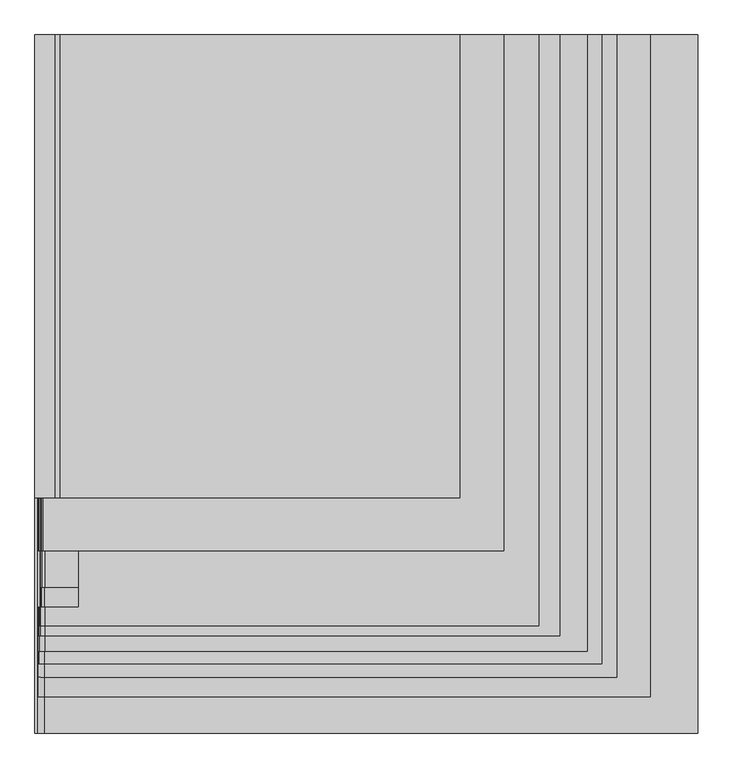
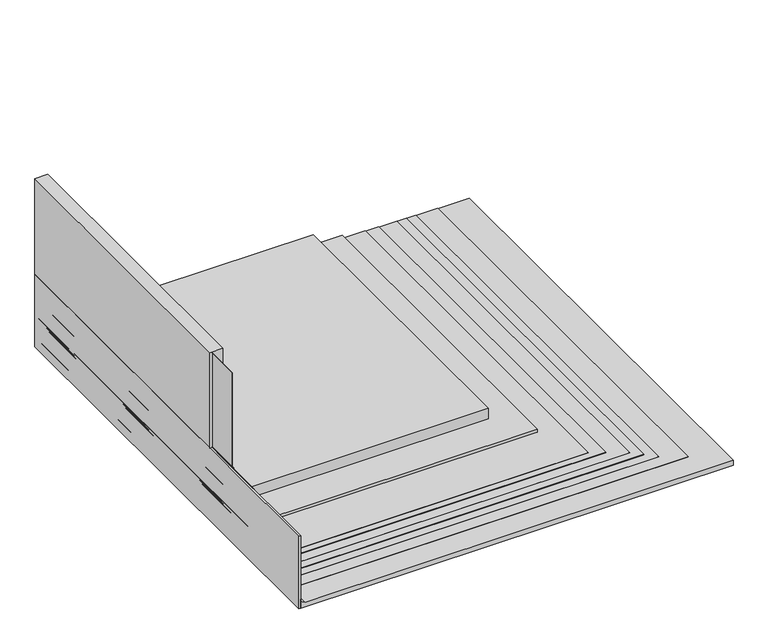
"""IFC4 building model written with IfcOpenShell, lengths in millimetres: proxy geometry, IMPER:IMPER:433934 : IMPER:IMPER:433934."""

import ifcopenshell
import ifcopenshell.guid

model = None  # the IFC model being written
_history = None  # IfcOwnerHistory: only IFC2X3 demands one
_inside = {}  # id of a spatial element -> (the spatial element, [elements in it])
_under = {}  # id of a project, library or spatial element -> (it, [spatial elements below it])
_declared = {}  # id of a project -> (the project, [libraries it declares])
_typed = {}  # id of a type object -> (the type object, [elements of that type])
_made_of = {}  # id of a material, layer set ... -> (it, [elements and type objects made of it])


def new_model(schema):
    """Start an empty IFC model of exactly this schema.

    Asked for "IFC4X3", IfcOpenShell would pick the latest addendum, in which some entities
    have other attributes; the version numbers below select the first issue.
    IFC2X3 requires an IfcOwnerHistory on every rooted entity: one is made here for all.
    """
    global model, _history
    if schema == "IFC4X3":
        model = ifcopenshell.file(schema_version=(4, 3, 0, 0))
    else:
        model = ifcopenshell.file(schema=schema)
    _inside.clear()
    _under.clear()
    _declared.clear()
    _typed.clear()
    _made_of.clear()
    _history = None
    if model.schema == "IFC2X3":
        org = make("IfcOrganization", Name="unknown")
        user = make(
            "IfcPersonAndOrganization",
            ThePerson=make("IfcPerson", FamilyName="unknown"),
            TheOrganization=org,
        )
        app = make(
            "IfcApplication",
            ApplicationDeveloper=org,
            Version="unknown",
            ApplicationFullName="unknown",
            ApplicationIdentifier="unknown",
        )
        _history = make(
            "IfcOwnerHistory",
            OwningUser=user,
            OwningApplication=app,
            ChangeAction="ADDED",
            CreationDate=0,
        )
    return model


def make(cls, **values):
    """One entity of the class cls with the attributes given. An attribute that is None is left unset."""
    return model.create_entity(
        cls, **{name: value for name, value in values.items() if value is not None}
    )


def rooted(cls, **values):
    """An entity with a GlobalId (a new one), such as an element, a storey or a relation."""
    return make(cls, GlobalId=ifcopenshell.guid.new(), OwnerHistory=_history, **values)


def si_unit(unit_type, name, prefix=None):
    """IfcSIUnit, for example si_unit("LENGTHUNIT", "METRE", prefix="MILLI")."""
    return make("IfcSIUnit", UnitType=unit_type, Prefix=prefix, Name=name)


def assignment(units):
    """IfcUnitAssignment: the units of a project."""
    return None if units is None else make("IfcUnitAssignment", Units=units)


def point(xyz):
    """IfcCartesianPoint."""
    return None if xyz is None else make("IfcCartesianPoint", Coordinates=xyz)


def direction(xyz):
    """IfcDirection."""
    return None if xyz is None else make("IfcDirection", DirectionRatios=xyz)


def frame(location, z_axis=None, x_axis=None):
    """IfcAxis2Placement3D, a coordinate frame: its origin and axes. An axis left out is left unset."""
    return make(
        "IfcAxis2Placement3D",
        Location=point(location),
        Axis=direction(z_axis),
        RefDirection=direction(x_axis),
    )


def frame_2d(location, x_axis=None):
    """IfcAxis2Placement2D, a coordinate frame in the plane: its origin and x axis."""
    return make(
        "IfcAxis2Placement2D", Location=point(location), RefDirection=direction(x_axis)
    )


def origin():
    """The frame at (0, 0, 0) with its axes left unset."""
    return frame((0.0, 0.0, 0.0))


def place(relative_to, where):
    """IfcLocalPlacement: puts the frame where relative to a parent placement (None: the world)."""
    return make(
        "IfcLocalPlacement", PlacementRelTo=relative_to, RelativePlacement=where
    )


def context(
    kind, dimensions, precision=None, world=None, true_north=None, identifier=None
):
    """IfcGeometricRepresentationContext, for example the 3D "Model" context."""
    return make(
        "IfcGeometricRepresentationContext",
        ContextIdentifier=identifier,
        ContextType=kind,
        CoordinateSpaceDimension=dimensions,
        Precision=precision,
        WorldCoordinateSystem=world,
        TrueNorth=true_north,
    )


def project(units=None, contexts=None):
    """IfcProject with its units and contexts."""
    return rooted(
        "IfcProject",
        Name="project",
        RepresentationContexts=contexts,
        UnitsInContext=assignment(units),
    )


def spatial(cls, under=None, at=None, **own):
    """A site, building, storey or space (cls), placed at a placement, below another one or the project."""
    s = rooted(cls, ObjectPlacement=at, **own)
    if under is not None:
        _under.setdefault(under.id(), (under, []))[1].append(s)
    return s


def polyline(points):
    """IfcPolyline through the points."""
    return make("IfcPolyline", Points=[point(p) for p in points])


def circle_curve(where, radius):
    """IfcCircle in the frame where."""
    return make("IfcCircle", Position=where, Radius=radius)


def trimmed(basis, trim1, trim2, sense, master):
    """IfcTrimmedCurve: the piece of a basis curve between two trims."""
    return make(
        "IfcTrimmedCurve",
        BasisCurve=basis,
        Trim1=trim1,
        Trim2=trim2,
        SenseAgreement=sense,
        MasterRepresentation=master,
    )


def segment(curve, same_sense, transition):
    """IfcCompositeCurveSegment."""
    return make(
        "IfcCompositeCurveSegment",
        Transition=transition,
        SameSense=same_sense,
        ParentCurve=curve,
    )


def composite_curve(segments, self_intersect=None):
    """IfcCompositeCurve: segments joined end to end."""
    return make("IfcCompositeCurve", Segments=segments, SelfIntersect=self_intersect)


def outline(outer, holes=None, kind="AREA"):
    """IfcArbitraryClosedProfileDef: a profile drawn as a closed curve; with holes, ...WithVoids."""
    if holes is None:
        return make("IfcArbitraryClosedProfileDef", ProfileType=kind, OuterCurve=outer)
    return make(
        "IfcArbitraryProfileDefWithVoids",
        ProfileType=kind,
        OuterCurve=outer,
        InnerCurves=holes,
    )


def extrude(swept, where, along, depth):
    """IfcExtrudedAreaSolid: the profile swept, set in the frame where, extruded along a direction by depth."""
    return make(
        "IfcExtrudedAreaSolid",
        SweptArea=swept,
        Position=where,
        ExtrudedDirection=direction(along),
        Depth=depth,
    )


def shape(context_of_items, identifier, shape_type, items):
    """IfcShapeRepresentation: the items that make up one representation, for example the "Body"."""
    return make(
        "IfcShapeRepresentation",
        ContextOfItems=context_of_items,
        RepresentationIdentifier=identifier,
        RepresentationType=shape_type,
        Items=items,
    )


def source(mapping_origin, context_of_items, identifier, shape_type, items):
    """IfcRepresentationMap: a shape defined once, which mapped items show again and again."""
    return make(
        "IfcRepresentationMap",
        MappingOrigin=mapping_origin,
        MappedRepresentation=shape(context_of_items, identifier, shape_type, items),
    )


def transform(
    local_origin,
    x_axis=None,
    y_axis=None,
    z_axis=None,
    scale=None,
    scale2=None,
    scale3=None,
    uniform=True,
):
    """IfcCartesianTransformationOperator3D, or its non-uniform kind. x_axis, y_axis, z_axis: its Axis1, 2, 3."""
    if uniform:
        return make(
            "IfcCartesianTransformationOperator3D",
            Axis1=direction(x_axis),
            Axis2=direction(y_axis),
            LocalOrigin=point(local_origin),
            Scale=scale,
            Axis3=direction(z_axis),
        )
    return make(
        "IfcCartesianTransformationOperator3DnonUniform",
        Axis1=direction(x_axis),
        Axis2=direction(y_axis),
        LocalOrigin=point(local_origin),
        Scale=scale,
        Axis3=direction(z_axis),
        Scale2=scale2,
        Scale3=scale3,
    )


def mapped(mapping_source, mapping_target):
    """IfcMappedItem: shows the shape of a source again, moved by a transform."""
    return make(
        "IfcMappedItem", MappingSource=mapping_source, MappingTarget=mapping_target
    )


def made_of(thing, what):
    """Note that an element or type object is made of a material, layer set ...; save() writes the relation."""
    if what is not None:
        _made_of.setdefault(what.id(), (what, []))[1].append(thing)
    return thing


def element(
    cls,
    number,
    at=None,
    inside=None,
    cuts=None,
    type_object=None,
    material=None,
    context=None,
    identifier="Body",
    shape_type=None,
    held_by="IfcProductDefinitionShape",
    body=None,
    shapes=None,
    **own,
):
    """One element of the class cls, such as IfcWall. Its Tag is "e" and its number.

    at: its placement. inside: the storey or other place that contains it. cuts: it is an
    opening in that element (IfcRelVoidsElement). A single representation is given by context,
    identifier, shape_type and body (its items); several are given by shapes. held_by: the class
    of the entity that holds the representations. save() writes the other relations.
    """
    e = rooted(cls, Tag="e%d" % number, ObjectPlacement=at, **own)
    if body is not None:
        shapes = [shape(context, identifier, shape_type, body)]
    if shapes is not None:
        e.Representation = make(held_by, Representations=shapes)
    if inside is not None:
        _inside.setdefault(inside.id(), (inside, []))[1].append(e)
    if cuts is not None:
        rooted(
            "IfcRelVoidsElement", RelatingBuildingElement=cuts, RelatedOpeningElement=e
        )
    if type_object is not None:
        _typed.setdefault(type_object.id(), (type_object, []))[1].append(e)
    return made_of(e, material)


def aggregate(whole, parts):
    """IfcRelAggregates: a whole, such as a stair, and the parts it consists of."""
    return rooted("IfcRelAggregates", RelatingObject=whole, RelatedObjects=parts)


def save(model, path):
    """Write the relations noted so far, then the file.

    IfcRelAggregates (storeys below a building ...), IfcRelContainedInSpatialStructure (elements
    in a storey), IfcRelDefinesByType, IfcRelAssociatesMaterial and IfcRelDeclares: one each for
    every whole, place, type object, material and project.
    """
    for whole, parts in _under.values():
        aggregate(whole, parts)
    for where, things in _inside.values():
        rooted(
            "IfcRelContainedInSpatialStructure",
            RelatedElements=things,
            RelatingStructure=where,
        )
    for kind, things in _typed.values():
        rooted("IfcRelDefinesByType", RelatedObjects=things, RelatingType=kind)
    for what, things in _made_of.values():
        rooted("IfcRelAssociatesMaterial", RelatedObjects=things, RelatingMaterial=what)
    for by, libraries in _declared.values():
        rooted("IfcRelDeclares", RelatingContext=by, RelatedDefinitions=libraries)
    model.write(path)


def generic_models_57401092(model_context):
    return source(origin(), model_context, "Body", "SweptSolid", [
        extrude(outline(polyline([(-352.9704105, 145.8700195), (-342.9704105, 145.8700195), (-342.9704105, -2708.2416892), (-352.9704105, -2708.2416892), (-352.9704105, 145.8700195)])), frame((0.0, 0.0, -3.523798), z_axis=(0.0, 0.0, 1.0), x_axis=(1.0, 0.0, 0.0)), (0.0, 0.0, 1.0), 477.2746515),
        extrude(outline(composite_curve([segment(polyline([(43.4968127, -175.9704105), (43.4968127, -312.7298014)]), True, "CONTINUOUS"), segment(trimmed(circle_curve(frame_2d((57.476202, -311.9704105)), 14.0), [point((43.4968127, -312.7298014))], [point((57.0054636, -325.9624942))], True, "CARTESIAN"), True, "CONTINUOUS"), segment(polyline([(57.0054636, -325.9624942), (163.6459496, -325.9624942)]), True, "CONTINUOUS"), segment(trimmed(circle_curve(frame_2d((163.6459496, -336.9154916)), 10.9529974), [point((163.6459496, -325.9624942))], [point((172.8377697, -330.9591004))], False, "CARTESIAN"), True, "CONTINUOUS"), segment(polyline([(172.8377697, -330.9591004), (296.9011706, -330.9591004)]), True, "CONTINUOUS"), segment(trimmed(circle_curve(frame_2d((296.0390559, -341.8781164)), 10.9529974), [point((296.9011706, -330.9591004))], [point((305.208802, -335.8877984))], False, "CARTESIAN"), True, "CONTINUOUS"), segment(polyline([(305.208802, -335.8877984), (461.4305685, -335.8877984), (462.4305685, -336.8877984), (304.6506112, -336.8877984)]), True, "CONTINUOUS"), segment(trimmed(circle_curve(frame_2d((296.0390559, -341.8781164)), 9.9529974), [point((304.6506112, -336.8877984))], [point((296.8608095, -331.9591004))], True, "CARTESIAN"), True, "CONTINUOUS"), segment(polyline([(296.8608095, -331.9591004), (172.2770761, -331.9591004)]), True, "CONTINUOUS"), segment(trimmed(circle_curve(frame_2d((163.6459496, -336.9154916)), 9.9529974), [point((172.2770761, -331.9591004))], [point((163.6459496, -326.9624942))], True, "CARTESIAN"), True, "CONTINUOUS"), segment(polyline([(163.6459496, -326.9624942), (56.9889369, -326.9624942)]), True, "CONTINUOUS"), segment(trimmed(circle_curve(frame_2d((57.476202, -311.9704105)), 15.0), [point((56.9889369, -326.9624942))], [point((42.4968127, -312.7564741))], False, "CARTESIAN"), True, "CONTINUOUS"), segment(polyline([(42.4968127, -312.7564741), (42.4968127, -175.9704105), (43.4968127, -175.9704105)]), True, "CONTINUOUS")], self_intersect=False)), frame((0.0, -2111.5680457, 0.0), z_axis=(0.0, 1.0, 0.0), x_axis=(0.0, 0.0, 1.0)), (0.0, 0.0, 1.0), 2257.4380652),
        extrude(outline(composite_curve([segment(polyline([(37.4968127, 1707.4269282), (38.4968127, 1707.4269282), (38.4968127, -312.8551599)]), True, "CONTINUOUS"), segment(trimmed(circle_curve(frame_2d((57.476202, -311.9704105)), 19.0), [point((38.4968127, -312.8551599))], [point((56.927788, -330.9624942))], True, "CARTESIAN"), True, "CONTINUOUS"), segment(polyline([(56.927788, -330.9624942), (163.6459496, -330.9624942)]), True, "CONTINUOUS"), segment(trimmed(circle_curve(frame_2d((163.6459496, -336.9154916)), 5.9529974), [point((163.6459496, -330.9624942))], [point((168.5147786, -333.4901911))], False, "CARTESIAN"), True, "CONTINUOUS"), segment(trimmed(circle_curve(frame_2d((173.549551, -329.502381)), 6.422738), [point((168.5147786, -333.4901911))], [point((173.549551, -335.925119))], True, "CARTESIAN"), True, "CONTINUOUS"), segment(polyline([(173.549551, -335.925119), (296.0390559, -335.925119)]), True, "CONTINUOUS"), segment(trimmed(circle_curve(frame_2d((296.0390559, -341.8781164)), 5.9529974), [point((296.0390559, -335.925119))], [point((300.9078849, -338.452816))], False, "CARTESIAN"), True, "CONTINUOUS"), segment(trimmed(circle_curve(frame_2d((305.838972, -334.6773306)), 6.2104678), [point((300.9078849, -338.452816))], [point((305.838972, -340.8877984))], True, "CARTESIAN"), True, "CONTINUOUS"), segment(polyline([(305.838972, -340.8877984), (466.4305685, -340.8877984), (467.5131806, -341.9704105), (301.4712479, -341.9591004), (301.4712479, -340.9541463), (297.4712479, -336.9541463), (173.4776741, -336.9541463)]), True, "CONTINUOUS"), segment(trimmed(circle_curve(frame_2d((173.859384, -328.7888279)), 8.1742355), [point((173.4776741, -336.9541463))], [point((167.9082305, -334.3925677))], False, "CARTESIAN"), True, "CONTINUOUS"), segment(trimmed(circle_curve(frame_2d((163.6459496, -336.9154916)), 4.9529974), [point((167.9082305, -334.3925677))], [point((163.6459496, -331.9624942))], True, "CARTESIAN"), True, "CONTINUOUS"), segment(polyline([(163.6459496, -331.9624942), (56.9135382, -331.9624942)]), True, "CONTINUOUS"), segment(trimmed(circle_curve(frame_2d((57.476202, -311.9704105)), 20.0), [point((56.9135382, -331.9624942))], [point((37.4968127, -312.8781566))], False, "CARTESIAN"), True, "CONTINUOUS"), segment(polyline([(37.4968127, -312.8781566), (37.4968127, 1707.4269282)]), True, "CONTINUOUS")], self_intersect=False)), frame((0.0, -2268.6283791, 0.0), z_axis=(0.0, 1.0, 0.0), x_axis=(0.0, 0.0, 1.0)), (0.0, 0.0, 1.0), 2414.4983986),
        extrude(outline(composite_curve([segment(polyline([(32.4968127, 1906.1092567), (33.4968127, 1906.1092567), (33.4968127, -312.9648392)]), True, "CONTINUOUS"), segment(trimmed(circle_curve(frame_2d((57.476202, -311.9704105)), 24.0), [point((33.4968127, -312.9648392))], [point((56.8598245, -335.9624942))], True, "CARTESIAN"), True, "CONTINUOUS"), segment(polyline([(56.8598245, -335.9624942), (164.0231996, -335.9624942)]), True, "CONTINUOUS"), segment(trimmed(circle_curve(frame_2d((173.859384, -328.7888279)), 12.1742355), [point((164.0231996, -335.9624942))], [point((173.3935088, -340.9541463))], True, "CARTESIAN"), True, "CONTINUOUS"), segment(polyline([(173.3935088, -340.9541463), (301.4712479, -340.9541463), (301.4712479, -341.9591004), (167.6425559, -341.9591004), (167.6425559, -340.9591004), (163.6459496, -336.9624942), (56.8471123, -336.9624942)]), True, "CONTINUOUS"), segment(trimmed(circle_curve(frame_2d((57.476202, -311.9704105)), 25.0), [point((56.8471123, -336.9624942))], [point((32.4968127, -312.9853538))], False, "CARTESIAN"), True, "CONTINUOUS"), segment(polyline([(32.4968127, -312.9853538), (32.4968127, 1906.1092567)]), True, "CONTINUOUS")], self_intersect=False)), frame((0.0, -2372.9793476, 0.0), z_axis=(0.0, 1.0, 0.0), x_axis=(0.0, 0.0, 1.0)), (0.0, 0.0, 1.0), 2518.8493671),
        extrude(outline(composite_curve([segment(polyline([(27.5018705, 2025.6221521), (28.4968127, 2025.6221521), (28.4968127, -314.0445492)]), True, "CONTINUOUS"), segment(trimmed(circle_curve(frame_2d((56.476202, -312.9704105)), 28.0), [point((28.4968127, -314.0445492))], [point((55.8104304, -340.9624942))], True, "CARTESIAN"), True, "CONTINUOUS"), segment(polyline([(55.8104304, -340.9624942), (165.6459496, -340.9624942), (165.6459496, -341.9591004), (55.6663512, -341.9591004)]), True, "CONTINUOUS"), segment(trimmed(circle_curve(frame_2d((56.476202, -312.9704105)), 29.0), [point((55.6663512, -341.9591004))], [point((27.5018705, -314.1902924))], False, "CARTESIAN"), True, "CONTINUOUS"), segment(polyline([(27.5018705, -314.1902924), (27.5018705, 2025.6221521)]), True, "CONTINUOUS")], self_intersect=False)), frame((0.0, -2478.9376415, 0.0), z_axis=(0.0, 1.0, 0.0), x_axis=(0.0, 0.0, 1.0)), (0.0, 0.0, 1.0), 2624.807661),
        extrude(outline(composite_curve([segment(polyline([(38.4968127, -312.8551599), (38.4968127, -175.9704105), (42.4968127, -175.9704105), (42.4968127, -312.7564741)]), True, "CONTINUOUS"), segment(trimmed(circle_curve(frame_2d((57.476202, -311.9704105)), 15.0), [point((42.4968127, -312.7564741))], [point((56.9889369, -326.9624942))], True, "CARTESIAN"), True, "CONTINUOUS"), segment(polyline([(56.9889369, -326.9624942), (163.6459496, -326.9624942)]), True, "CONTINUOUS"), segment(trimmed(circle_curve(frame_2d((163.6459496, -336.9154916)), 9.9529974), [point((163.6459496, -326.9624942))], [point((172.2770761, -331.9591004))], False, "CARTESIAN"), True, "CONTINUOUS"), segment(polyline([(172.2770761, -331.9591004), (296.8608095, -331.9591004)]), True, "CONTINUOUS"), segment(trimmed(circle_curve(frame_2d((296.0390559, -341.8781164)), 9.9529974), [point((296.8608095, -331.9591004))], [point((304.6506112, -336.8877984))], False, "CARTESIAN"), True, "CONTINUOUS"), segment(polyline([(304.6506112, -336.8877984), (462.4305685, -336.8877984), (466.4305685, -340.8877984), (305.838972, -340.8877984)]), True, "CONTINUOUS"), segment(trimmed(circle_curve(frame_2d((305.838972, -334.6773306)), 6.2104678), [point((305.838972, -340.8877984))], [point((300.9078849, -338.452816))], False, "CARTESIAN"), True, "CONTINUOUS"), segment(trimmed(circle_curve(frame_2d((296.0390559, -341.8781164)), 5.9529974), [point((300.9078849, -338.452816))], [point((296.0390559, -335.925119))], True, "CARTESIAN"), True, "CONTINUOUS"), segment(polyline([(296.0390559, -335.925119), (173.549551, -335.925119)]), True, "CONTINUOUS"), segment(trimmed(circle_curve(frame_2d((173.549551, -329.502381)), 6.422738), [point((173.549551, -335.925119))], [point((168.5147786, -333.4901911))], False, "CARTESIAN"), True, "CONTINUOUS"), segment(trimmed(circle_curve(frame_2d((163.6459496, -336.9154916)), 5.9529974), [point((168.5147786, -333.4901911))], [point((163.6459496, -330.9624942))], True, "CARTESIAN"), True, "CONTINUOUS"), segment(polyline([(163.6459496, -330.9624942), (56.927788, -330.9624942)]), True, "CONTINUOUS"), segment(trimmed(circle_curve(frame_2d((57.476202, -311.9704105)), 19.0), [point((56.927788, -330.9624942))], [point((38.4968127, -312.8551599))], False, "CARTESIAN"), True, "CONTINUOUS")], self_intersect=False)), frame((0.0, -2191.1266924, 0.0), z_axis=(0.0, 1.0, 0.0), x_axis=(0.0, 0.0, 1.0)), (0.0, 0.0, 1.0), 2336.9967119),
        extrude(outline(polyline([(-271.9704105, 145.8700195), (-251.9704105, 145.8700195), (-251.9704105, -1746.6992838), (-271.9704105, -1746.6992838), (-271.9704105, 145.8700195)])), frame((0.0, 0.0, 107.3018705), z_axis=(0.0, 0.0, 1.0), x_axis=(1.0, 0.0, 0.0)), (0.0, 0.0, 1.0), 20.0),
        extrude(outline(composite_curve([segment(polyline([(127.3018705, 1383.8408996), (127.3018705, -251.9704105), (107.3018705, -251.9704105), (107.3018705, -271.9704105), (127.3018705, -271.9704105), (1104.1279924, -271.9704105), (1104.1279924, -352.9704105), (473.7508535, -352.9704105), (473.7508535, -342.9704105), (463.7010344, -332.9205914), (454.5173822, -332.9205914), (454.5173822, -335.8877984), (305.208802, -335.8877984)]), True, "CONTINUOUS"), segment(trimmed(circle_curve(frame_2d((296.0390559, -341.8781164)), 10.9529974), [point((305.208802, -335.8877984))], [point((296.9011706, -330.9591004))], True, "CARTESIAN"), True, "CONTINUOUS"), segment(polyline([(296.9011706, -330.9591004), (172.8377697, -330.9591004)]), True, "CONTINUOUS"), segment(trimmed(circle_curve(frame_2d((163.6459496, -336.9154916)), 10.9529974), [point((172.8377697, -330.9591004))], [point((163.6459496, -325.9624942))], True, "CARTESIAN"), True, "CONTINUOUS"), segment(polyline([(163.6459496, -325.9624942), (58.4968127, -325.9624942), (58.4968127, 1383.8408996), (127.3018705, 1383.8408996)]), True, "CONTINUOUS")], self_intersect=False)), frame((0.0, -1746.6992838, 0.0), z_axis=(0.0, 1.0, 0.0), x_axis=(0.0, 0.0, 1.0)), (0.0, 0.0, 1.0), 1892.5693033),
        extrude(outline(composite_curve([segment(polyline([(58.4968127, 1564.0375058), (58.4968127, -325.9331593)]), True, "CONTINUOUS"), segment(trimmed(circle_curve(frame_2d((57.476202, -311.9704105)), 14.0), [point((58.4968127, -325.9331593))], [point((43.4968127, -312.7298014))], False, "CARTESIAN"), True, "CONTINUOUS"), segment(polyline([(43.4968127, -312.7298014), (43.4968127, -175.9704105), (38.4968127, -175.9704105), (38.4968127, 1564.0375058), (58.4968127, 1564.0375058)]), True, "CONTINUOUS")], self_intersect=False)), frame((0.0, -1963.6408586, 0.0), z_axis=(0.0, 1.0, 0.0), x_axis=(0.0, 0.0, 1.0)), (0.0, 0.0, 1.0), 2109.5108781),
        extrude(outline(polyline([(461.4633615, -335.9205914), (454.5173822, -335.9205914), (454.5173822, -332.9205914), (463.7010344, -332.9205914), (473.7508535, -342.9704105), (468.5131806, -342.9704105), (461.4633615, -335.9205914)])), frame((0.0, -2191.1266924, 0.0), z_axis=(0.0, 1.0, 0.0), x_axis=(0.0, 0.0, 1.0)), (0.0, 0.0, 1.0), 2336.9967119),
        extrude(outline(composite_curve([segment(polyline([(162.3497254, -322.3591004), (64.8117312, -322.3591004), (64.8117312, -321.5591004), (162.3497254, -321.5591004)]), True, "CONTINUOUS"), segment(trimmed(circle_curve(frame_2d((162.3497254, -337.1120978)), 15.5529974), [point((162.3497254, -321.5591004))], [point((173.5866634, -326.3591004))], False, "CARTESIAN"), True, "CONTINUOUS"), segment(polyline([(173.5866634, -326.3591004), (297.476202, -326.3591004)]), True, "CONTINUOUS"), segment(trimmed(circle_curve(frame_2d((297.476202, -341.9120978)), 15.5529974), [point((297.476202, -326.3591004))], [point((308.71314, -331.1591004))], False, "CARTESIAN"), True, "CONTINUOUS"), segment(polyline([(308.71314, -331.1591004), (469.5652191, -331.1591004)]), True, "CONTINUOUS"), segment(trimmed(circle_curve(frame_2d((458.684068, -349.0899304)), 20.9741296), [point((469.5652191, -331.1591004))], [point((476.2538106, -337.6348766))], False, "CARTESIAN"), True, "CONTINUOUS"), segment(polyline([(476.2538106, -337.6348766), (1098.9341396, -337.6348766), (1098.9341396, -338.4348766), (475.8148979, -338.4348766)]), True, "CONTINUOUS"), segment(trimmed(circle_curve(frame_2d((458.684068, -349.0899304)), 20.1741296), [point((475.8148979, -338.4348766))], [point((469.3391217, -331.9591004))], True, "CARTESIAN"), True, "CONTINUOUS"), segment(polyline([(469.3391217, -331.9591004), (308.3660494, -331.9591004)]), True, "CONTINUOUS"), segment(trimmed(circle_curve(frame_2d((297.476202, -341.9120978)), 14.7529974), [point((308.3660494, -331.9591004))], [point((297.476202, -327.1591004))], True, "CARTESIAN"), True, "CONTINUOUS"), segment(polyline([(297.476202, -327.1591004), (173.2395727, -327.1591004)]), True, "CONTINUOUS"), segment(trimmed(circle_curve(frame_2d((162.3497254, -337.1120978)), 14.7529974), [point((173.2395727, -327.1591004))], [point((162.3497254, -322.3591004))], True, "CARTESIAN"), True, "CONTINUOUS")], self_intersect=False)), frame((0.0, -1963.6408586, 0.0), z_axis=(0.0, 1.0, 0.0), x_axis=(0.0, 0.0, 1.0)), (0.0, 0.0, 1.0), 2109.5108781),
        extrude(outline(composite_curve([segment(trimmed(circle_curve(frame_2d((56.476202, -312.9704105)), 30.0), [point((26.476202, -312.9704105))], [point((56.476202, -342.9704105))], True, "CARTESIAN"), True, "CONTINUOUS"), segment(polyline([(56.476202, -342.9704105), (-3.523798, -342.9704105), (-3.523798, 2357.0295895), (26.476202, 2357.0295895), (26.476202, -312.9704105)]), True, "CONTINUOUS")], self_intersect=False)), frame((0.0, -2708.2416892, 0.0), z_axis=(0.0, 1.0, 0.0), x_axis=(0.0, 0.0, 1.0)), (0.0, 0.0, 1.0), 2854.1117086),
        extrude(outline(composite_curve([segment(polyline([(55.6663512, -341.9591004), (467.5061085, -341.9591004), (467.5061085, -342.9704105), (56.476202, -342.9704105)]), True, "CONTINUOUS"), segment(trimmed(circle_curve(frame_2d((56.476202, -312.9704105)), 30.0), [point((56.476202, -342.9704105))], [point((26.476202, -312.9704105))], False, "CARTESIAN"), True, "CONTINUOUS"), segment(polyline([(26.476202, -312.9704105), (26.476202, 2162.8408996), (27.5018705, 2162.8408996), (27.5018705, -314.1902924)]), True, "CONTINUOUS"), segment(trimmed(circle_curve(frame_2d((56.476202, -312.9704105)), 29.0), [point((27.5018705, -314.1902924))], [point((55.6663512, -341.9591004))], True, "CARTESIAN"), True, "CONTINUOUS")], self_intersect=False)), frame((0.0, -2558.7854434, 0.0), z_axis=(0.0, 1.0, 0.0), x_axis=(0.0, 0.0, 1.0)), (0.0, 0.0, 1.0), 2704.6554629),
        extrude(outline(composite_curve([segment(trimmed(circle_curve(frame_2d((163.6459496, -336.9154916)), 4.9529974), [point((163.6459496, -331.9624942))], [point((167.9082305, -334.3925677))], False, "CARTESIAN"), True, "CONTINUOUS"), segment(trimmed(circle_curve(frame_2d((173.859384, -328.7888279)), 8.1742355), [point((167.9082305, -334.3925677))], [point((173.4776741, -336.9541463))], True, "CARTESIAN"), True, "CONTINUOUS"), segment(polyline([(173.4776741, -336.9541463), (297.4712479, -336.9541463), (301.4712479, -340.9541463), (173.3935088, -340.9541463)]), True, "CONTINUOUS"), segment(trimmed(circle_curve(frame_2d((173.859384, -328.7888279)), 12.1742355), [point((173.3935088, -340.9541463))], [point((164.0231996, -335.9624942))], False, "CARTESIAN"), True, "CONTINUOUS"), segment(polyline([(164.0231996, -335.9624942), (56.8598245, -335.9624942)]), True, "CONTINUOUS"), segment(trimmed(circle_curve(frame_2d((57.476202, -311.9704105)), 24.0), [point((56.8598245, -335.9624942))], [point((33.4968127, -312.9648392))], False, "CARTESIAN"), True, "CONTINUOUS"), segment(polyline([(33.4968127, -312.9648392), (33.4968127, 1792.4704111), (37.4968127, 1792.4704111), (37.4968127, -312.8781566)]), True, "CONTINUOUS"), segment(trimmed(circle_curve(frame_2d((57.476202, -311.9704105)), 20.0), [point((37.4968127, -312.8781566))], [point((56.9135382, -331.9624942))], True, "CARTESIAN"), True, "CONTINUOUS"), segment(polyline([(56.9135382, -331.9624942), (163.6459496, -331.9624942)]), True, "CONTINUOUS")], self_intersect=False)), frame((0.0, -2310.4740333, 0.0), z_axis=(0.0, 1.0, 0.0), x_axis=(0.0, 0.0, 1.0)), (0.0, 0.0, 1.0), 2456.3440527),
        extrude(outline(composite_curve([segment(polyline([(56.8471123, -336.9624942), (163.6459496, -336.9624942), (167.6425559, -340.9591004), (55.6804394, -340.9591004)]), True, "CONTINUOUS"), segment(trimmed(circle_curve(frame_2d((56.476202, -312.9704105)), 28.0), [point((55.6804394, -340.9591004))], [point((28.4968127, -314.0445492))], False, "CARTESIAN"), True, "CONTINUOUS"), segment(polyline([(28.4968127, -314.0445492), (28.4968127, 1964.4112423), (32.4968127, 1964.4112423), (32.4968127, -312.9853538)]), True, "CONTINUOUS"), segment(trimmed(circle_curve(frame_2d((57.476202, -311.9704105)), 25.0), [point((32.4968127, -312.9853538))], [point((56.8471123, -336.9624942))], True, "CARTESIAN"), True, "CONTINUOUS")], self_intersect=False)), frame((0.0, -2425.100387, 0.0), z_axis=(0.0, 1.0, 0.0), x_axis=(0.0, 0.0, 1.0)), (0.0, 0.0, 1.0), 2570.9704065),
    ])


if __name__ == "__main__":
    model = new_model("IFC4")
    model_context = context("Model", 3, world=origin())
    ifc_project = project(units=[si_unit("LENGTHUNIT", "METRE", prefix="MILLI")], contexts=[model_context])
    site = spatial("IfcSite", under=ifc_project)
    building = spatial("IfcBuilding", under=site)
    placement = place(None, origin())
    generic_models_shape = generic_models_57401092(model_context)
    element("IfcBuildingElementProxy", 1, Name="IMPER:IMPER:433934 : IMPER:IMPER:433934", ObjectType="IMPER:IMPER:433934 : IMPER:IMPER:433934", at=placement, inside=building, context=model_context, shape_type="MappedRepresentation", body=[
        mapped(generic_models_shape, transform((0.0, 0.0, 0.0), x_axis=(1.0, 0.0, 0.0), y_axis=(0.0, 1.0, 0.0), z_axis=(0.0, 0.0, 1.0))),
    ])
    save(model, "model.ifc")
